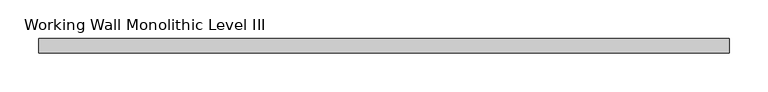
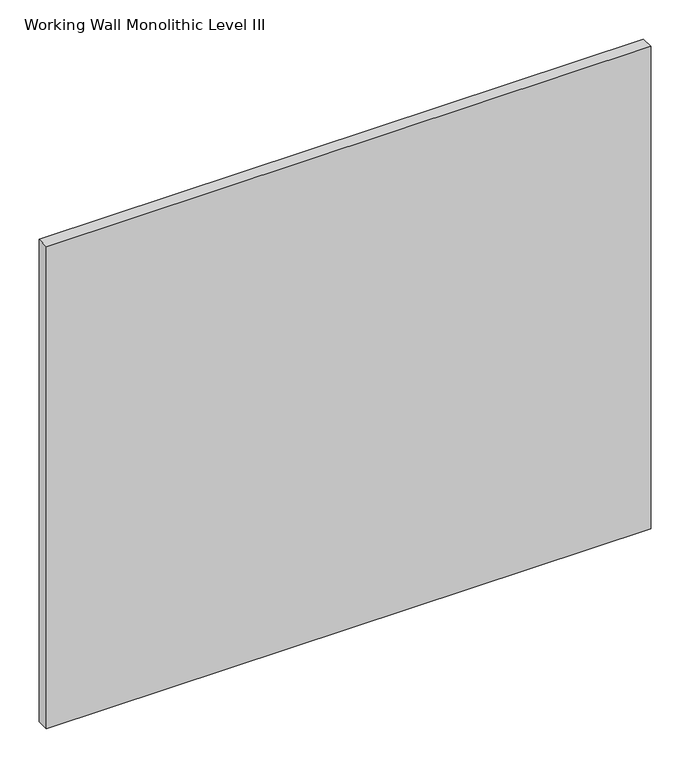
"""IFC4 building model written with IfcOpenShell, lengths in millimetres: proxy geometry, Panel-Fascia-Teknion-Altos-Standard : Working Wall Monolithic Level III."""

from ifc_helpers import new_model, si_unit, frame, origin, place, context, project, spatial, polyline, outline, extrude, source, transform, mapped, element, save


def working_wall_monolithic_level_iii_031ea846(model_context):
    return source(origin(), model_context, "Body", "SweptSolid", [
        extrude(outline(polyline([(447.0356344, -9.525), (-447.0356344, -9.525), (-447.0356344, 9.525), (447.0356344, 9.525), (447.0356344, -9.525)])), frame((0.0, 0.0, 3.175), z_axis=(0.0, 0.0, 1.0), x_axis=(1.0, 0.0, 0.0)), (0.0, 0.0, 1.0), 753.618),
    ])


if __name__ == "__main__":
    model = new_model("IFC4")
    model_context = context("Model", 3, world=origin())
    ifc_project = project(units=[si_unit("LENGTHUNIT", "METRE", prefix="MILLI")], contexts=[model_context])
    site = spatial("IfcSite", under=ifc_project)
    building = spatial("IfcBuilding", under=site)
    placement = place(None, origin())
    working_wall_monolithic_level_iii_shape = working_wall_monolithic_level_iii_031ea846(model_context)
    element("IfcBuildingElementProxy", 1, Name="Panel-Fascia-Teknion-Altos-Standard : Working Wall Monolithic Level III", ObjectType="Panel-Fascia-Teknion-Altos-Standard : Working Wall Monolithic Level III", at=placement, inside=building, context=model_context, shape_type="MappedRepresentation", body=[
        mapped(working_wall_monolithic_level_iii_shape, transform((0.0, 0.0, 0.0), x_axis=(1.0, 0.0, 0.0), y_axis=(0.0, 1.0, 0.0), z_axis=(0.0, 0.0, 1.0))),
    ])
    save(model, "model.ifc")
